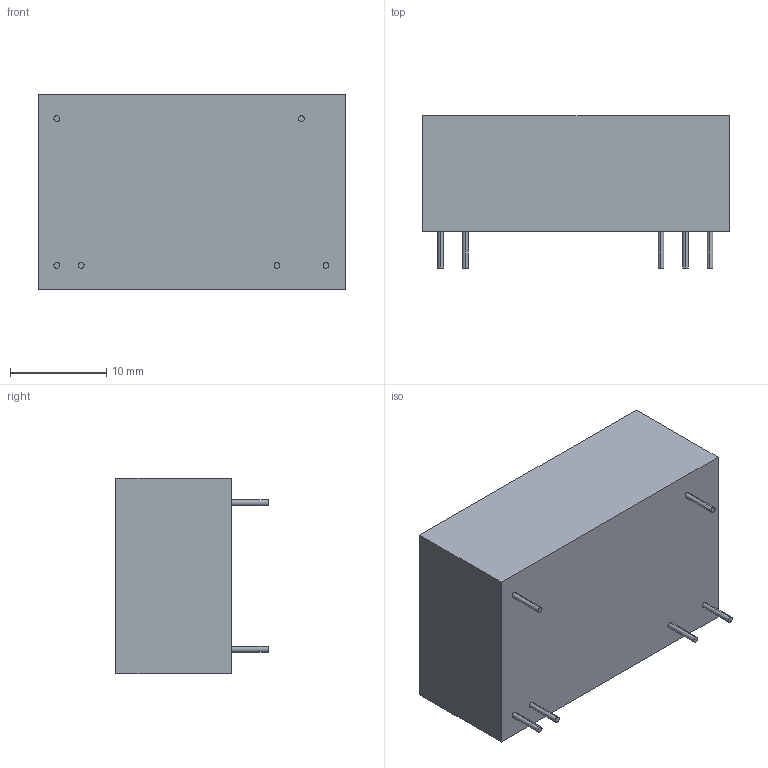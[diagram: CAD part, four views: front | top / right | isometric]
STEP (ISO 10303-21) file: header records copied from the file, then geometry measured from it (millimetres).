
FILE_DESCRIPTION (( 'STEP AP203' ), '1' );
FILE_NAME ('TRI 6 Dual Output.STEP', '2020-11-13T08:08:20', ( '' ), ( '' ), 'SwSTEP 2.0', 'SolidWorks 2020', '' );
FILE_SCHEMA (( 'CONFIG_CONTROL_DESIGN' ));
Length unit declared in the file: millimetre
Products named in the file (1): TRI 6 Dual Output
Bounding box: 31.8 x 15.8 x 20.3 mm (x, y, z)
Volume: 7752.9 mm3; surface area: 2584.5 mm2
Topology: 1 solids, 1 shells, 24 faces, 48 edges, 32 vertices
Faces by surface type: cylinder 12, plane 12
Entity records: 713 total; most frequent: DIRECTION 122, CARTESIAN_POINT 105, ORIENTED_EDGE 96, AXIS2_PLACEMENT_3D 49, EDGE_CURVE 48, VERTEX_POINT 32, EDGE_LOOP 30, VECTOR 24
